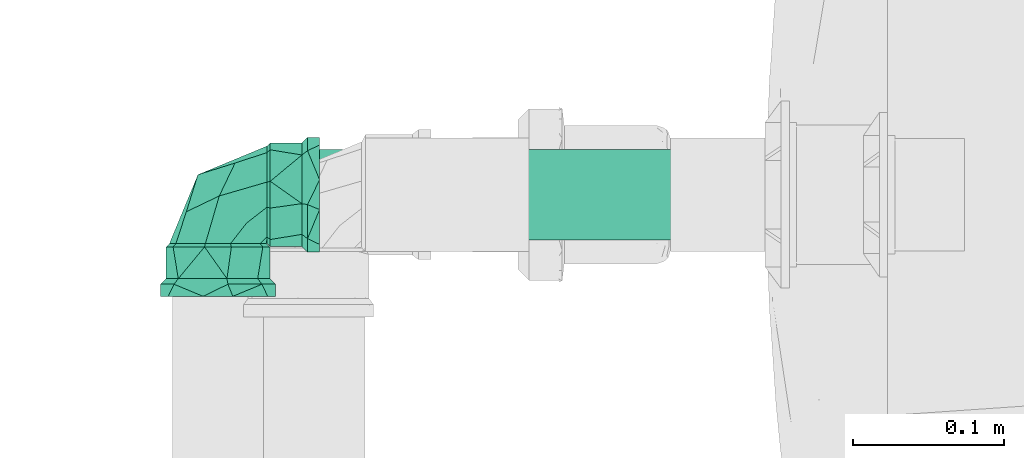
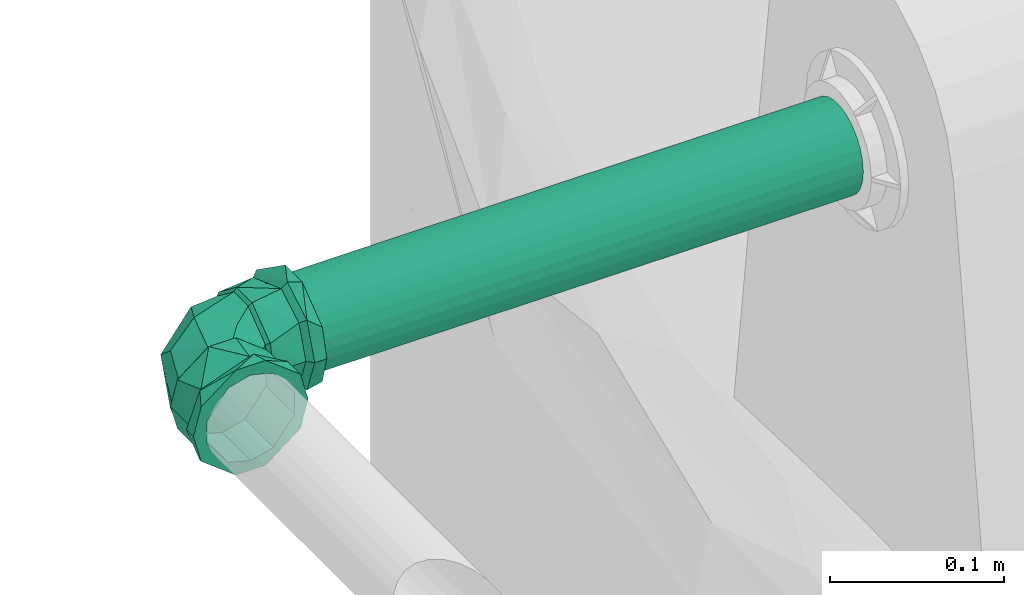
# One storey, part 64 of 166: 1 flow fitting, 1 flow segment.
"""IFC2X3 building model written with IfcOpenShell, lengths in metres."""

from ifc_helpers import new_model, entity, si_unit, converted_unit, direction, frame, origin, origin_2d_with_axis, place, context, subcontext, project, spatial, circle, extrude, faceted_brep, source, transform, mapped, material, type_object, type_shapes, element, save


model = new_model("IFC2X3")

# Units and contexts
model_context = context("Model", 3, precision=1e-05, world=origin(), true_north=direction((6.123233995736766e-17, 1.0)))
body_context = subcontext(model_context, "Body", "Model", "MODEL_VIEW")
ifc_project = project(units=[si_unit("LENGTHUNIT", "METRE"), converted_unit("PLANEANGLEUNIT", "DEGREE", entity("IfcPlaneAngleMeasure", 0.017453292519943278), si_unit("PLANEANGLEUNIT", "RADIAN"), dimensions=[0, 0, 0, 0, 0, 0, 0]), si_unit("AREAUNIT", "SQUARE_METRE")], contexts=[model_context])

# Site, building, storey
site_placement = place(None, origin())
site = spatial("IfcSite", under=ifc_project, at=site_placement, Name="Default", CompositionType="ELEMENT")
building_placement = place(site_placement, origin())
building = spatial("IfcBuilding", under=site, at=building_placement, Name="CASA DE ACOLHIDA PARA IDOSOS", CompositionType="ELEMENT")
storey_placement = place(building_placement, frame((0.0, 0.0, -1.7499999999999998)))
storey = spatial("IfcBuildingStorey", under=building, at=storey_placement, Name="IMPLANTAÇÃO DRENAGEM", CompositionType="ELEMENT", Elevation=-1.7499999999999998)

# Flow segment
pipe_segment_type = type_object("IfcPipeSegmentType", Name="Tipos de tubos:AF_Tubo Branco Roscável", PredefinedType="NOTDEFINED")
flow_segment_placement = place(storey_placement, origin())
element("IfcFlowSegment", 1, at=flow_segment_placement, inside=storey, type_object=pipe_segment_type, Name="Tipos de tubos:AF_Tubo Branco Roscável", ObjectType="Tipos de tubos:AF_Tubo Branco Roscável", context=body_context, shape_type="SweptSolid", body=[
    extrude(circle(Radius=0.03, at=origin_2d_with_axis()), frame((-64.67268057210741, 1.7406218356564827, 2.615000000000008), z_axis=(1.0, 0.0, 0.0), x_axis=(0.0, 1.0, 0.0)), (0.0, 0.0, 1.0), 0.39277051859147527),
])

# Flow fitting
ifc_material = material(Name="PVC Marrom")
pipe_fitting_type = type_object("IfcPipeFittingType", Name="AF_Soldavel_Joelho 45_90:Standard", PredefinedType="NOTDEFINED", material=ifc_material)
shared_shape = source(origin(), body_context, "Body", "Brep", [
    faceted_brep([(-0.029704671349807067, 0.03460000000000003, 0.017149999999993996), (-0.01929108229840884, 0.03460000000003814, 0.02514062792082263), (-0.008877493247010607, 0.034600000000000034, 0.03313125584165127), (0.008877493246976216, 0.034600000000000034, 0.03313125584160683), (0.019291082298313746, 0.0346000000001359, 0.025140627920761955), (0.02970467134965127, 0.03460000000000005, 0.017149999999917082), (0.03429999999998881, 0.03460000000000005, 0.0), (0.0297046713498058, 0.03460000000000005, -0.017150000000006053), (0.019291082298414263, 0.03459999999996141, -0.025140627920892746), (0.008877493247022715, 0.034600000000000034, -0.03313125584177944), (-0.008877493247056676, 0.034600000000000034, -0.033131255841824), (-0.019291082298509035, 0.034599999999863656, -0.025140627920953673), (-0.0297046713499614, 0.03460000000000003, -0.017150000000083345), (-0.03430000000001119, 0.03460000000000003, 0.0), (0.00832103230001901, 0.03240000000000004, 0.031054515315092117), (-0.00832103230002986, 0.03240000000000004, 0.031054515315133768), (-0.01808187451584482, 0.03240000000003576, 0.023564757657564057), (-0.02784271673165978, 0.032400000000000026, 0.01607499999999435), (-0.032150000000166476, 0.032400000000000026, 0.0), (-0.027842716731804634, 0.032400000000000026, -0.016075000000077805), (-0.018081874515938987, 0.03239999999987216, -0.023564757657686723), (-0.00832103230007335, 0.03240000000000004, -0.031054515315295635), (0.008321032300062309, 0.03240000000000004, -0.031054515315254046), (0.018081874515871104, 0.0323999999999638, -0.02356475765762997), (0.0278427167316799, 0.03240000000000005, -0.016075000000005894), (0.032149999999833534, 0.03240000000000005, 0.0), (0.02784271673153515, 0.03240000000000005, 0.016074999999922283), (0.01808187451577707, 0.03240000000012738, 0.023564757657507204)], [[[0, 1, 2, 3, 4, 5, 6, 7, 8, 9, 10, 11, 12, 13]], [[14, 15, 16, 17, 18, 19, 20, 21, 22, 23, 24, 25, 26, 27]], [[7, 25, 24]], [[9, 8, 7, 24, 23, 22]], [[20, 19, 12, 11, 10, 21]], [[7, 6, 25]], [[22, 21, 10, 9]], [[13, 19, 18]], [[13, 12, 19]], [[0, 18, 17]], [[2, 1, 0, 17, 16, 15]], [[27, 26, 5, 4, 3, 14]], [[0, 13, 18]], [[15, 14, 3, 2]], [[6, 26, 25]], [[6, 5, 26]]]),
    faceted_brep([(-0.0345999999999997, -0.008877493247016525, 0.03313125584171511), (-0.0345999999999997, 0.008877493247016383, 0.03313125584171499), (-0.03459999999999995, 0.019291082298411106, 0.025140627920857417), (-0.0345999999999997, 0.029704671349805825, 0.01714999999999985), (-0.0345999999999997, 0.0343, 0.0), (-0.0345999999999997, 0.029704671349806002, -0.017149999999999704), (-0.034600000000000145, 0.019291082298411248, -0.025140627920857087), (-0.0345999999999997, 0.008877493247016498, -0.033131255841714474), (-0.0345999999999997, -0.008877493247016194, -0.033131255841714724), (-0.03459999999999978, -0.019291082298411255, -0.0251406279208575), (-0.0345999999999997, -0.029704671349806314, -0.017150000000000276), (-0.0345999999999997, -0.0343, 0.0), (-0.0345999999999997, -0.02970467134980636, 0.017150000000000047), (-0.03459999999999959, -0.019291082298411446, 0.025140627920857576), (-0.0323999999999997, 0.032149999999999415, 0.0), (-0.0323999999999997, 0.02784271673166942, 0.016074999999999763), (-0.03239999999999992, 0.018081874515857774, 0.023564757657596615), (-0.0323999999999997, 0.008321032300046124, 0.031054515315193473), (-0.0323999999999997, -0.008321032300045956, 0.031054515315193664), (-0.032399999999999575, -0.01808187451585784, 0.023564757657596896), (-0.0323999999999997, -0.027842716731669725, 0.016075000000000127), (-0.0323999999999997, -0.03215000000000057, 0.0), (-0.0323999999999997, -0.027842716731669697, -0.01607500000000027), (-0.03239999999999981, -0.01808187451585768, -0.02356475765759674), (-0.0323999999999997, -0.008321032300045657, -0.031054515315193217), (-0.0323999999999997, 0.008321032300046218, -0.031054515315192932), (-0.032400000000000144, 0.018081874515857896, -0.023564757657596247), (-0.0323999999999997, 0.027842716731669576, -0.016074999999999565)], [[[0, 1, 2, 3, 4, 5, 6, 7, 8, 9, 10, 11, 12, 13]], [[14, 15, 16, 17, 18, 19, 20, 21, 22, 23, 24, 25, 26, 27]], [[5, 4, 14, 27]], [[7, 6, 5, 27, 26, 25]], [[23, 22, 10, 9, 8, 24]], [[25, 24, 8, 7]], [[11, 10, 22, 21]], [[12, 11, 21, 20]], [[0, 13, 12, 20, 19, 18]], [[16, 15, 3, 2, 1, 17]], [[18, 17, 1, 0]], [[4, 3, 15, 14]]]),
    faceted_brep([(-0.06729999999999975, -0.009835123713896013, -0.03670518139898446), (-0.06729999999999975, 0.0, -0.03), (-0.06729999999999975, 0.009835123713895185, -0.03670518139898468), (-0.06729999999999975, -0.015000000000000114, -0.025980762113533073), (-0.06729999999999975, -0.032908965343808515, -0.019000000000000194), (-0.06729999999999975, -0.028977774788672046, -0.007764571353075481), (-0.06729999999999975, -0.03799999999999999, 0.0), (-0.06729999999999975, -0.02897777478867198, 0.007764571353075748), (-0.06729999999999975, -0.03290896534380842, 0.01899999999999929), (-0.06729999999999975, -0.014999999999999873, 0.02598076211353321), (-0.06729999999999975, -0.009835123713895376, 0.036705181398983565), (-0.06729999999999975, 0.0, 0.03), (-0.06729999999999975, 0.009835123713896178, 0.03670518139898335), (-0.06729999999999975, 0.014999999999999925, 0.025980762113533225), (-0.06729999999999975, 0.032908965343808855, 0.018999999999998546), (-0.06729999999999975, 0.028977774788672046, 0.007764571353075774), (-0.06729999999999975, 0.038000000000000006, 0.0), (-0.06729999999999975, 0.028977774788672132, -0.007764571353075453), (-0.06729999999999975, 0.03290896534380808, -0.01900000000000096), (-0.06729999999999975, 0.015000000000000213, -0.025980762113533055), (-0.05929999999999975, 0.038000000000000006, 0.0), (-0.05930000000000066, 0.029109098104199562, 0.024426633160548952), (-0.05930000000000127, 0.006596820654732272, 0.03742301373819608), (-0.05930000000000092, -0.029111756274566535, 0.02442346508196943), (-0.05929999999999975, -0.03799999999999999, 0.0), (-0.05929999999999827, -0.029111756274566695, -0.024423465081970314), (-0.05929999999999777, -0.006600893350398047, -0.03742229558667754), (-0.059299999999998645, 0.029109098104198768, -0.024426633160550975), (-0.05560000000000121, -0.026279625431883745, 0.022042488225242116), (-0.05560000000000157, 0.005952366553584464, 0.033779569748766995), (-0.05559999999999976, -0.0343, 0.0), (-0.05560000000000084, 0.026274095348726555, 0.022049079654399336), (-0.05559999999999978, 0.034299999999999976, 0.0), (-0.055599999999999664, 0.02627409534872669, -0.02204907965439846), (-0.05559999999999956, -0.0059608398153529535, -0.03377807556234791), (-0.05559999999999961, -0.026279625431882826, -0.022042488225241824), (-0.03459999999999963, -0.015000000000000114, -0.025980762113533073), (-0.03459999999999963, -0.0088774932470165, -0.03313125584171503), (-0.03459999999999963, 0.0, -0.03), (-0.03459999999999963, -0.02970467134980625, -0.017149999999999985), (-0.03459999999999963, -0.028977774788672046, -0.007764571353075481), (-0.03459999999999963, -0.0343, 0.0), (-0.03459999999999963, -0.02897777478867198, 0.007764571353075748), (-0.03459999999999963, -0.029704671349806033, 0.017150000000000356), (-0.03459999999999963, -0.014999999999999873, 0.02598076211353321), (-0.03459999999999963, -0.008877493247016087, 0.03313125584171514), (-0.03459999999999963, 0.0, 0.03), (-0.03459999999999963, 0.008877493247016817, 0.033131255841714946), (-0.03459999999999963, 0.014999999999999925, 0.025980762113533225), (-0.03459999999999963, 0.029704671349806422, 0.0171499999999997), (-0.03459999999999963, 0.028977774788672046, 0.007764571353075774), (-0.03459999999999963, 0.034300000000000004, 0.0), (-0.03459999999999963, 0.028977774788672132, -0.007764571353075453), (-0.03459999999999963, 0.029704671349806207, -0.017150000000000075), (-0.03459999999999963, 0.015000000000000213, -0.025980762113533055), (-0.03459999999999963, 0.008877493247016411, -0.03313125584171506)], [[[0, 1, 2]], [[1, 0, 3]], [[4, 3, 0]], [[3, 4, 5]], [[5, 4, 6]], [[7, 5, 6]], [[7, 6, 8]], [[8, 9, 7]], [[8, 10, 9]], [[9, 10, 11]], [[12, 11, 10]], [[13, 11, 12]], [[13, 12, 14]], [[14, 15, 13]], [[15, 14, 16]], [[15, 16, 17]], [[18, 17, 16]], [[2, 19, 18]], [[17, 18, 19]], [[19, 2, 1]], [[16, 14, 20]], [[14, 21, 20]], [[21, 14, 12]], [[21, 12, 22]], [[23, 10, 8]], [[24, 8, 6]], [[10, 23, 22]], [[23, 8, 24]], [[10, 22, 12]], [[6, 4, 24]], [[4, 25, 24]], [[25, 4, 0]], [[25, 0, 26]], [[27, 2, 18]], [[20, 18, 16]], [[2, 27, 26]], [[27, 18, 20]], [[2, 26, 0]], [[28, 29, 23]], [[30, 28, 24]], [[24, 28, 23]], [[29, 22, 23]], [[31, 32, 21]], [[21, 22, 31]], [[20, 21, 32]], [[31, 22, 29]], [[32, 33, 27]], [[27, 20, 32]], [[26, 27, 33]], [[33, 34, 26]], [[35, 30, 24]], [[35, 25, 34]], [[25, 35, 24]], [[34, 25, 26]], [[36, 37, 38]], [[39, 37, 36]], [[36, 40, 39]], [[40, 41, 39]], [[42, 41, 40]], [[41, 42, 43]], [[44, 43, 42]], [[43, 44, 45]], [[46, 45, 44]], [[47, 45, 46]], [[48, 47, 46]], [[47, 48, 49]], [[50, 49, 48]], [[49, 50, 51]], [[51, 50, 52]], [[51, 52, 53]], [[53, 52, 54]], [[54, 38, 55]], [[55, 53, 54]], [[37, 55, 38]], [[32, 31, 49]], [[32, 49, 51]], [[49, 31, 47]], [[31, 29, 47]], [[45, 29, 28]], [[43, 28, 30]], [[28, 43, 45]], [[43, 30, 41]], [[29, 45, 47]], [[30, 35, 39]], [[30, 39, 41]], [[39, 35, 37]], [[35, 34, 37]], [[55, 34, 33]], [[53, 33, 32]], [[33, 53, 55]], [[53, 32, 51]], [[34, 55, 37]], [[9, 11, 46, 44]], [[7, 9, 44, 42]], [[42, 40, 5, 7]], [[3, 5, 40, 36]], [[1, 3, 36, 38]], [[19, 1, 38, 54]], [[17, 19, 54, 52]], [[52, 50, 15, 17]], [[13, 15, 50, 48]], [[11, 13, 48, 46]]]),
    faceted_brep([(-0.032399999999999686, -0.00832103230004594, -0.031054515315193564), (-0.03239999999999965, -0.027842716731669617, -0.016075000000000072), (-0.032399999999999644, -0.032149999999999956, 0.0), (-0.03239999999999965, -0.027842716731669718, 0.01607499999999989), (-0.032399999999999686, -0.008321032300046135, 0.03105451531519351), (-0.03239999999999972, 0.008321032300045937, 0.031054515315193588), (-0.032399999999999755, 0.027842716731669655, 0.016075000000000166), (-0.03239999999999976, 0.03215000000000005, 0.0), (-0.032399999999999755, 0.027842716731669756, -0.016074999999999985), (-0.03239999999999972, 0.008321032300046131, -0.031054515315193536), (-0.00832103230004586, 0.03239999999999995, -0.031054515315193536), (-0.027842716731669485, 0.03240000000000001, -0.016074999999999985), (-0.032149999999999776, 0.032400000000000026, 0.0), (-0.027842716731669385, 0.03240000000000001, 0.016075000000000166), (-0.008321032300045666, 0.03239999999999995, 0.031054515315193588), (0.008321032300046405, 0.032399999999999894, 0.03105451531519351), (0.02784271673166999, 0.03239999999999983, 0.01607499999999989), (0.03215000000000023, 0.032399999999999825, 0.0), (0.027842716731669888, 0.03239999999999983, -0.016075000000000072), (0.008321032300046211, 0.032399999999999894, -0.031054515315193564), (-0.000853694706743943, 0.0008536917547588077, 0.02973987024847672), (-0.011305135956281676, -0.02093489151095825, 0.020269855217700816), (-0.0034548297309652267, -0.020160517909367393, 0.0), (0.013243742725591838, -0.013243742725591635, 0.0), (0.02093489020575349, 0.011305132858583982, 0.02026985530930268), (-0.03222322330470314, 0.032223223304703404, 0.0), (-0.018882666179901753, 0.01888266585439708, 0.02927743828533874), (0.020160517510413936, 0.0034548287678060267, 0.0), (-0.011305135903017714, -0.0209348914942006, -0.020269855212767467), (-0.01888266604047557, 0.018882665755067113, -0.029277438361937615), (-0.0008536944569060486, 0.0008536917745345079, -0.02973987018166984), (0.02093489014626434, 0.011305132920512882, -0.020269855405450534)], [[[0, 1, 2, 3, 4, 5, 6, 7, 8, 9]], [[10, 11, 12, 13, 14, 15, 16, 17, 18, 19]], [[4, 20, 5]], [[21, 3, 22]], [[23, 21, 22]], [[15, 20, 24]], [[21, 4, 3]], [[25, 6, 13]], [[23, 24, 20]], [[25, 7, 6]], [[6, 5, 26]], [[3, 2, 22]], [[20, 21, 23]], [[27, 17, 16]], [[20, 26, 5]], [[20, 4, 21]], [[24, 27, 16]], [[6, 26, 13]], [[25, 13, 12]], [[24, 16, 15]], [[20, 14, 26]], [[14, 13, 26]], [[24, 23, 27]], [[14, 20, 15]], [[28, 23, 22]], [[28, 1, 0]], [[29, 8, 11]], [[29, 30, 9]], [[2, 1, 22]], [[30, 19, 31]], [[1, 28, 22]], [[30, 0, 9]], [[23, 28, 30]], [[30, 29, 10]], [[8, 7, 25]], [[25, 12, 11]], [[23, 31, 27]], [[0, 30, 28]], [[11, 10, 29]], [[30, 10, 19]], [[18, 17, 27]], [[23, 30, 31]], [[8, 29, 9]], [[31, 19, 18]], [[18, 27, 31]], [[11, 8, 25]]]),
    faceted_brep([(-0.015000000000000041, 0.03460000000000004, -0.025980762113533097), (-0.008877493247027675, 0.03460000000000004, -0.03313125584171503), (0.0, 0.03460000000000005, -0.03), (-0.02970467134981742, 0.034600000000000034, -0.017149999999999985), (-0.028977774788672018, 0.034600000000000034, -0.007764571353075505), (-0.03430000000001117, 0.034600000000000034, 0.0), (-0.028977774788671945, 0.034600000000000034, 0.007764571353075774), (-0.02970467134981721, 0.034600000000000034, 0.017150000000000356), (-0.01499999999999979, 0.03460000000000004, 0.025980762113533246), (-0.00887749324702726, 0.03460000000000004, 0.03313125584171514), (0.0, 0.03460000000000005, 0.03), (0.008877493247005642, 0.03460000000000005, 0.033131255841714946), (0.01500000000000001, 0.03460000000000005, 0.02598076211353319), (0.029704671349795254, 0.034600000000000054, 0.017149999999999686), (0.02897777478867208, 0.034600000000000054, 0.007764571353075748), (0.034299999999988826, 0.034600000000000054, 0.0), (0.028977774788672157, 0.034600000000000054, -0.007764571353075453), (0.029704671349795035, 0.034600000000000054, -0.017150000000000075), (0.01500000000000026, 0.03460000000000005, -0.02598076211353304), (0.008877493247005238, 0.03460000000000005, -0.03313125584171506), (0.03429999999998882, 0.055600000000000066, 0.0), (0.026274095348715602, 0.055600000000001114, 0.022049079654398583), (-0.005960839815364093, 0.05560000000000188, 0.03377807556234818), (-0.026279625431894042, 0.0556000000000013, 0.022042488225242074), (-0.034300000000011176, 0.055600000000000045, 0.0), (-0.026279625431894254, 0.05559999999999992, -0.022042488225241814), (0.005952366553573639, 0.0555999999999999, -0.03377956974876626), (0.026274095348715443, 0.05559999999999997, -0.022049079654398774), (-0.029109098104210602, 0.05930000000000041, 0.02442663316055), (-0.038000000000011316, 0.05929999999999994, 0.0), (-0.006596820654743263, 0.0593000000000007, 0.03742301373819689), (0.029111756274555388, 0.05930000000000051, 0.024423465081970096), (0.037999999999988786, 0.059300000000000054, 0.0), (0.029111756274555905, 0.05930000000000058, -0.024423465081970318), (0.006600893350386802, 0.05930000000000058, -0.03742229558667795), (-0.029109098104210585, 0.05930000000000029, -0.02442663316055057), (-0.009835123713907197, 0.06730000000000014, -0.036705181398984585), (-0.015000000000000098, 0.06730000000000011, -0.025980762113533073), (0.0, 0.06730000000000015, -0.03), (-0.03290896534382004, 0.06730000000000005, -0.018999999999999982), (0.009835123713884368, 0.06730000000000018, -0.03670518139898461), (-0.028977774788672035, 0.06730000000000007, -0.007764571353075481), (-0.03800000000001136, 0.06730000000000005, 0.0), (-0.028977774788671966, 0.06730000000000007, 0.007764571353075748), (-0.0329089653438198, 0.06730000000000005, 0.0190000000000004), (-0.014999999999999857, 0.06730000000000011, 0.02598076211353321), (-0.009835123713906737, 0.06730000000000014, 0.0367051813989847), (0.0, 0.06730000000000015, 0.03), (0.009835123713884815, 0.06730000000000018, 0.03670518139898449), (0.01499999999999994, 0.06730000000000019, 0.025980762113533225), (0.03290896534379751, 0.06730000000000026, 0.018999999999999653), (0.02897777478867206, 0.06730000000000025, 0.007764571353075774), (0.03799999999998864, 0.06730000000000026, 0.0), (0.028977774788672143, 0.06730000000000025, -0.007764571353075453), (0.03290896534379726, 0.06730000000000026, -0.019000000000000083), (0.015000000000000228, 0.06730000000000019, -0.025980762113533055)], [[[0, 1, 2]], [[3, 1, 0]], [[0, 4, 3]], [[4, 5, 3]], [[6, 5, 4]], [[5, 6, 7]], [[8, 7, 6]], [[7, 8, 9]], [[10, 9, 8]], [[11, 9, 10]], [[12, 11, 10]], [[11, 12, 13]], [[14, 13, 12]], [[13, 14, 15]], [[15, 14, 16]], [[15, 16, 17]], [[17, 16, 18]], [[18, 2, 19]], [[19, 17, 18]], [[1, 19, 2]], [[20, 21, 13]], [[20, 13, 15]], [[13, 21, 11]], [[21, 22, 11]], [[9, 22, 23]], [[7, 23, 24]], [[23, 7, 9]], [[7, 24, 5]], [[22, 9, 11]], [[24, 25, 3]], [[24, 3, 5]], [[3, 25, 1]], [[25, 26, 1]], [[19, 26, 27]], [[17, 27, 20]], [[27, 17, 19]], [[17, 20, 15]], [[26, 19, 1]], [[23, 22, 28]], [[24, 23, 29]], [[29, 23, 28]], [[22, 30, 28]], [[21, 20, 31]], [[31, 30, 21]], [[32, 31, 20]], [[21, 30, 22]], [[20, 27, 33]], [[33, 32, 20]], [[34, 33, 27]], [[27, 26, 34]], [[25, 24, 29]], [[25, 35, 26]], [[35, 25, 29]], [[26, 35, 34]], [[36, 37, 38]], [[37, 36, 39]], [[38, 40, 36]], [[39, 41, 37]], [[39, 42, 41]], [[41, 42, 43]], [[44, 43, 42]], [[43, 44, 45]], [[46, 45, 44]], [[45, 46, 47]], [[47, 46, 48]], [[48, 49, 47]], [[50, 49, 48]], [[49, 50, 51]], [[52, 51, 50]], [[52, 53, 51]], [[54, 53, 52]], [[55, 53, 54]], [[55, 54, 40]], [[40, 38, 55]], [[52, 50, 32]], [[50, 31, 32]], [[31, 50, 48]], [[31, 48, 30]], [[28, 46, 44]], [[29, 44, 42]], [[46, 28, 30]], [[28, 44, 29]], [[46, 30, 48]], [[42, 39, 29]], [[39, 35, 29]], [[35, 39, 36]], [[35, 36, 34]], [[33, 40, 54]], [[32, 54, 52]], [[40, 33, 34]], [[33, 54, 32]], [[40, 34, 36]], [[45, 47, 10, 8]], [[43, 45, 8, 6]], [[6, 4, 41, 43]], [[37, 41, 4, 0]], [[38, 37, 0, 2]], [[55, 38, 2, 18]], [[53, 55, 18, 16]], [[16, 14, 51, 53]], [[49, 51, 14, 12]], [[47, 49, 12, 10]]]),
])
type_shapes(pipe_fitting_type, [shared_shape])
flow_fitting_placement = place(storey_placement, frame((-64.70728057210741, 1.7406218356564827, 2.615000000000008), z_axis=(0.0, 0.0, 1.0), x_axis=(-1.0, 0.0, 0.0)))
element("IfcFlowFitting", 2, at=flow_fitting_placement, inside=storey, type_object=pipe_fitting_type, material=ifc_material, Name="AF_Soldavel_Joelho 45_90:Standard", ObjectType="AF_Soldavel_Joelho 45_90:Standard", context=body_context, shape_type="MappedRepresentation", body=[
    mapped(shared_shape, transform((0.0, 0.0, 0.0), scale=1.0)),
])

save(model, "model.ifc")
